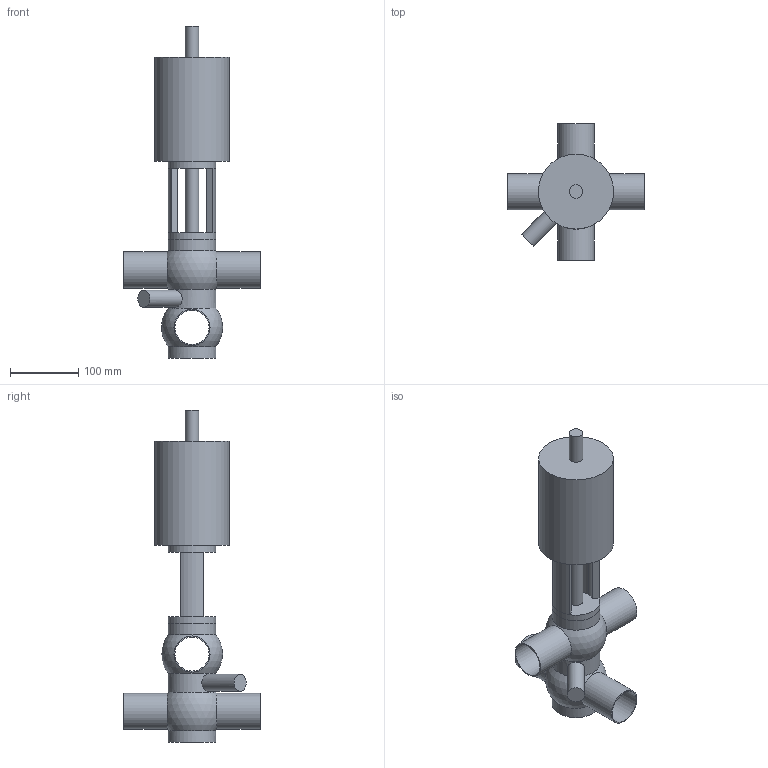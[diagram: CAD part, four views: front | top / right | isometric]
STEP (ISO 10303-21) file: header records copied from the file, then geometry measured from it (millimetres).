
FILE_DESCRIPTION(('FreeCAD Model'),'2;1');
FILE_NAME( '/home/martin/Documents/proyect/valves/stp/valve_TT_DN-50.step', '2018-01-12T21:41:41',('Author'),(''), 'Open CASCADE STEP processor 6.8','FreeCAD','Unknown');
FILE_SCHEMA(('AUTOMOTIVE_DESIGN_CC2 { 1 2 10303 214 -1 1 5 4 }'));
Length unit declared in the file: millimetre
Products named in the file (3): ASSEMBLY; valve_TT_DN-50-body; valve_TT_DN-50-head
Assembly tree (2 placements, depth 2):
  ASSEMBLY
    valve_TT_DN-50-body
    valve_TT_DN-50-head
Bounding box: 200 x 200 x 487 mm (x, y, z)
Volume: 2042125 mm3; surface area: 269857.4 mm2
Topology: 2 solids, 2 shells, 45 faces, 104 edges, 67 vertices
Faces by surface type: cylinder 23, plane 18, sphere 4
Full cylindrical faces by diameter (mm): 20 x2, 25 x1, 50 x5, 53 x4, 70 x5, 110 x1
Entity records: 4839 total; most frequent: CARTESIAN_POINT 2497, DIRECTION 411, ORIENTED_EDGE 204, PCURVE 204, DEFINITIONAL_REPRESENTATION 204, LINE 170, VECTOR 170, AXIS2_PLACEMENT_3D 105
